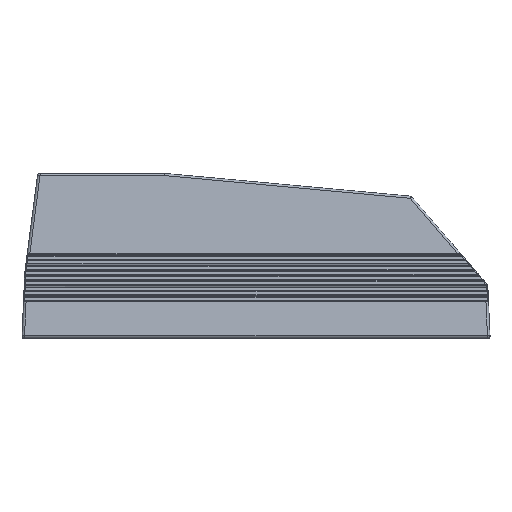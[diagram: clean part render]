
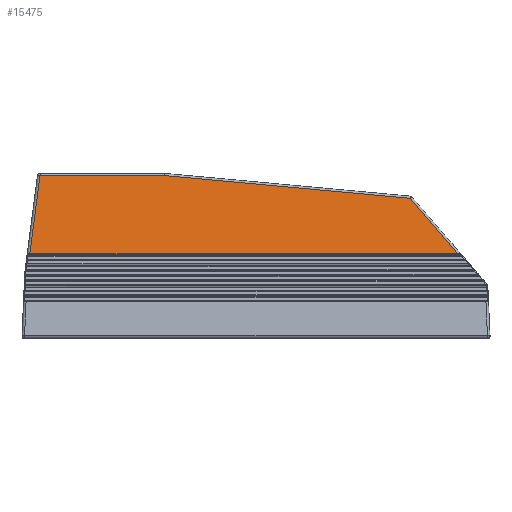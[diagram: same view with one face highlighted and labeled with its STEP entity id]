
A CAD part, top view. The second image highlights one B-rep face of the part: STEP entity #15475.
In plain terms, the highlighted planar face has unit normal (0, 0.148, 0.989).
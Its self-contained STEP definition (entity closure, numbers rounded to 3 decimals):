
#144 = CARTESIAN_POINT ( 'NONE',  ( 36.702, 22.018, 24.154 ) ) ;
#681 = VERTEX_POINT ( 'NONE', #144 ) ;
#960 = EDGE_CURVE ( 'NONE', #16308, #681, #3592, .T. ) ;
#1981 = DIRECTION ( 'NONE',  ( -0.128, -0.981, 0.147 ) ) ;
#2915 = DIRECTION ( 'NONE',  ( 0., 0.148, 0.989 ) ) ;
#3030 = CARTESIAN_POINT ( 'NONE',  ( -45.94, 22.018, 24.154 ) ) ;
#3039 = ORIENTED_EDGE ( 'NONE', *, *, #16376, .T. ) ;
#3346 = CARTESIAN_POINT ( 'NONE',  ( -20.023, 37.114, 21.889 ) ) ;
#3592 = LINE ( 'NONE', #11644, #9376 ) ;
#3957 = EDGE_CURVE ( 'NONE', #14428, #15432, #6743, .T. ) ;
#4126 = CARTESIAN_POINT ( 'NONE',  ( -47.475, 22.018, 24.154 ) ) ;
#5713 = PLANE ( 'NONE',  #9470 ) ;
#5883 = EDGE_CURVE ( 'NONE', #16308, #16788, #14846, .T. ) ;
#6383 = VECTOR ( 'NONE', #14850, 1000. ) ;
#6743 = LINE ( 'NONE', #10230, #7582 ) ;
#6910 = ORIENTED_EDGE ( 'NONE', *, *, #5883, .T. ) ;
#7292 = DIRECTION ( 'NONE',  ( 1., 0., 0. ) ) ;
#7463 = VECTOR ( 'NONE', #7292, 1000. ) ;
#7582 = VECTOR ( 'NONE', #1981, 1000. ) ;
#7774 = VECTOR ( 'NONE', #9409, 1000. ) ;
#9376 = VECTOR ( 'NONE', #10487, 1000. ) ;
#9409 = DIRECTION ( 'NONE',  ( -1., 0., 0. ) ) ;
#9470 = AXIS2_PLACEMENT_3D ( 'NONE', #15321, #2915, #12467 ) ;
#10230 = CARTESIAN_POINT ( 'NONE',  ( -43.971, 37.114, 21.889 ) ) ;
#10487 = DIRECTION ( 'NONE',  ( 0.646, -0.755, 0.113 ) ) ;
#10550 = LINE ( 'NONE', #17349, #7774 ) ;
#11077 = LINE ( 'NONE', #4126, #7463 ) ;
#11175 = CARTESIAN_POINT ( 'NONE',  ( -43.971, 37.114, 21.889 ) ) ;
#11256 = EDGE_LOOP ( 'NONE', ( #17243, #6910, #3039, #12731, #16009 ) ) ;
#11644 = CARTESIAN_POINT ( 'NONE',  ( 9.67, 53.58, 19.42 ) ) ;
#11719 = CARTESIAN_POINT ( 'NONE',  ( 27.54, 32.716, 22.549 ) ) ;
#11841 = EDGE_CURVE ( 'NONE', #15432, #681, #11077, .T. ) ;
#12467 = DIRECTION ( 'NONE',  ( 0., -0.989, 0.148 ) ) ;
#12731 = ORIENTED_EDGE ( 'NONE', *, *, #3957, .T. ) ;
#13314 = CARTESIAN_POINT ( 'NONE',  ( 27.54, 32.716, 22.549 ) ) ;
#14428 = VERTEX_POINT ( 'NONE', #11175 ) ;
#14846 = LINE ( 'NONE', #13314, #6383 ) ;
#14850 = DIRECTION ( 'NONE',  ( -0.996, 0.092, -0.014 ) ) ;
#15159 = FACE_OUTER_BOUND ( 'NONE', #11256, .T. ) ;
#15321 = CARTESIAN_POINT ( 'NONE',  ( -47.475, 5.715, 26.599 ) ) ;
#15432 = VERTEX_POINT ( 'NONE', #3030 ) ;
#15475 = ADVANCED_FACE ( 'NONE', ( #15159 ), #5713, .T. ) ;
#16009 = ORIENTED_EDGE ( 'NONE', *, *, #11841, .T. ) ;
#16308 = VERTEX_POINT ( 'NONE', #11719 ) ;
#16376 = EDGE_CURVE ( 'NONE', #16788, #14428, #10550, .T. ) ;
#16788 = VERTEX_POINT ( 'NONE', #3346 ) ;
#17243 = ORIENTED_EDGE ( 'NONE', *, *, #960, .F. ) ;
#17349 = CARTESIAN_POINT ( 'NONE',  ( -47.475, 37.114, 21.889 ) ) ;
